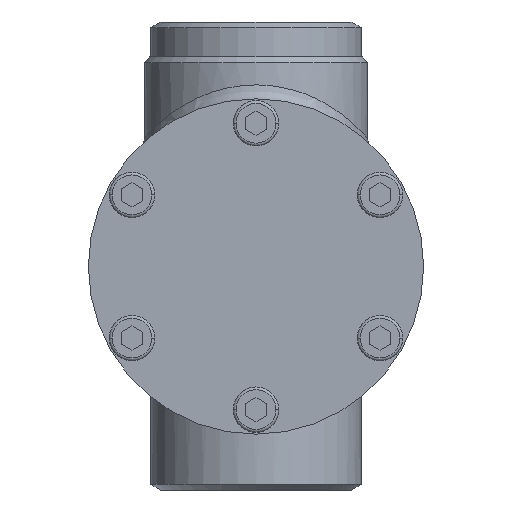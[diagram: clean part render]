
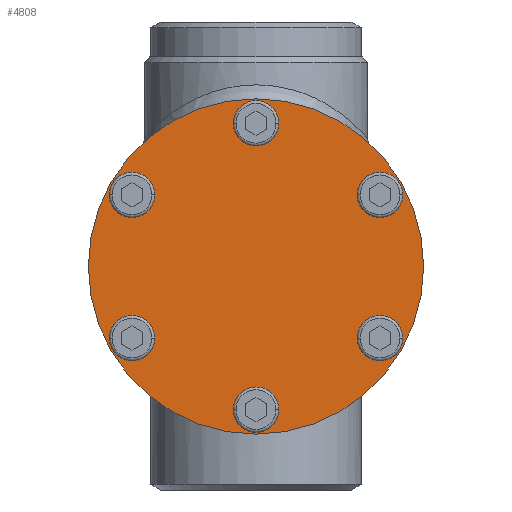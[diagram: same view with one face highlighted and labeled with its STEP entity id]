
A CAD part, front view. The second image highlights one B-rep face of the part: STEP entity #4808.
In plain terms, the highlighted planar face has unit normal (0, -1, 0) as drawn and (0, 0, -1) by its records, which use the part's own axes.
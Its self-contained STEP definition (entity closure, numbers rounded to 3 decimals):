
#177 = EDGE_CURVE ( 'NONE', #1837, #28986, #25030, .T. ) ;
#418 = EDGE_CURVE ( 'NONE', #7014, #4771, #25304, .T. ) ;
#453 = EDGE_CURVE ( 'NONE', #12820, #13241, #25311, .T. ) ;
#16857 = VERTEX_POINT ( 'NONE', #14685 ) ;
#17265 = EDGE_CURVE ( 'NONE', #18259, #16857, #14903, .T. ) ;
#18037 = VERTEX_POINT ( 'NONE', #16211 ) ;
#1837 = VERTEX_POINT ( 'NONE', #25865 ) ;
#18258 = EDGE_CURVE ( 'NONE', #19153, #18037, #16292, .T. ) ;
#18259 = VERTEX_POINT ( 'NONE', #16315 ) ;
#18856 = EDGE_LOOP ( 'NONE', ( #4269, #13482 ) ) ;
#19153 = VERTEX_POINT ( 'NONE', #26865 ) ;
#19460 = ORIENTED_EDGE ( 'NONE', *, *, #177, .F. ) ;
#19631 = CIRCLE ( 'NONE', #19632, 4.5 ) ;
#19632 = AXIS2_PLACEMENT_3D ( 'NONE', #19633, #19634, #19635 ) ;
#19633 = CARTESIAN_POINT ( 'NONE',  ( 0., -41., -41.5 ) ) ;
#19634 = DIRECTION ( 'NONE',  ( 0., 0., -1. ) ) ;
#19635 = DIRECTION ( 'NONE',  ( 1., 0., 0. ) ) ;
#19795 = CARTESIAN_POINT ( 'NONE',  ( -40.007, 20.5, -41.5 ) ) ;
#4269 = ORIENTED_EDGE ( 'NONE', *, *, #11634, .F. ) ;
#20657 = CIRCLE ( 'NONE', #20658, 4.5 ) ;
#20658 = AXIS2_PLACEMENT_3D ( 'NONE', #20659, #20660, #20661 ) ;
#20659 = CARTESIAN_POINT ( 'NONE',  ( -35.507, 20.5, -41.5 ) ) ;
#20660 = DIRECTION ( 'NONE',  ( 0., 0., -1. ) ) ;
#20661 = DIRECTION ( 'NONE',  ( -0.5, -0.866, 0. ) ) ;
#20729 = CARTESIAN_POINT ( 'NONE',  ( -48., 0., -41.5 ) ) ;
#20780 = CARTESIAN_POINT ( 'NONE',  ( -40.007, -20.5, -41.5 ) ) ;
#20839 = ORIENTED_EDGE ( 'NONE', *, *, #18258, .F. ) ;
#20987 = CARTESIAN_POINT ( 'NONE',  ( 48., 0., -41.5 ) ) ;
#4771 = VERTEX_POINT ( 'NONE', #6109 ) ;
#4806 = EDGE_LOOP ( 'NONE', ( #15179, #20839 ) ) ;
#4808 = ADVANCED_FACE ( 'NONE', ( #6182, #6183, #6184, #6185, #6186, #6187, #6188 ), #6222, .F. ) ;
#4921 = ORIENTED_EDGE ( 'NONE', *, *, #15322, .F. ) ;
#21781 = EDGE_CURVE ( 'NONE', #22468, #12926, #12067, .T. ) ;
#5477 = VERTEX_POINT ( 'NONE', #7686 ) ;
#5545 = EDGE_CURVE ( 'NONE', #28986, #1837, #7748, .T. ) ;
#5582 = EDGE_LOOP ( 'NONE', ( #4921, #12442 ) ) ;
#6034 = ORIENTED_EDGE ( 'NONE', *, *, #7424, .F. ) ;
#22468 = VERTEX_POINT ( 'NONE', #13376 ) ;
#6109 = CARTESIAN_POINT ( 'NONE',  ( 4.5, 41., -41.5 ) ) ;
#6182 = FACE_BOUND ( 'NONE', #4806, .T. ) ;
#6183 = FACE_BOUND ( 'NONE', #14526, .T. ) ;
#6184 = FACE_BOUND ( 'NONE', #18856, .T. ) ;
#6185 = FACE_BOUND ( 'NONE', #13102, .T. ) ;
#6186 = FACE_BOUND ( 'NONE', #10701, .T. ) ;
#6187 = FACE_BOUND ( 'NONE', #7990, .T. ) ;
#6188 = FACE_OUTER_BOUND ( 'NONE', #5582, .T. ) ;
#6222 = PLANE ( 'NONE',  #6223 ) ;
#6223 = AXIS2_PLACEMENT_3D ( 'NONE', #6224, #6225, #6226 ) ;
#6224 = CARTESIAN_POINT ( 'NONE',  ( 0., 0., -41.5 ) ) ;
#6225 = DIRECTION ( 'NONE',  ( 0., 0., 1. ) ) ;
#6226 = DIRECTION ( 'NONE',  ( 1., 0., 0. ) ) ;
#7014 = VERTEX_POINT ( 'NONE', #11445 ) ;
#7017 = ORIENTED_EDGE ( 'NONE', *, *, #418, .F. ) ;
#7424 = EDGE_CURVE ( 'NONE', #4771, #7014, #11743, .T. ) ;
#23928 = CIRCLE ( 'NONE', #23929, 4.5 ) ;
#23929 = AXIS2_PLACEMENT_3D ( 'NONE', #23930, #23931, #23932 ) ;
#23930 = CARTESIAN_POINT ( 'NONE',  ( 35.507, 20.5, -41.5 ) ) ;
#23931 = DIRECTION ( 'NONE',  ( 0., 0., -1. ) ) ;
#23932 = DIRECTION ( 'NONE',  ( -0.5, 0.866, 0. ) ) ;
#7686 = CARTESIAN_POINT ( 'NONE',  ( -31.007, 20.5, -41.5 ) ) ;
#7748 = CIRCLE ( 'NONE', #7749, 4.5 ) ;
#7749 = AXIS2_PLACEMENT_3D ( 'NONE', #7750, #7751, #7752 ) ;
#7750 = CARTESIAN_POINT ( 'NONE',  ( 35.507, -20.5, -41.5 ) ) ;
#7751 = DIRECTION ( 'NONE',  ( 0., 0., -1. ) ) ;
#7752 = DIRECTION ( 'NONE',  ( 0.5, 0.866, 0. ) ) ;
#7990 = EDGE_LOOP ( 'NONE', ( #7017, #6034 ) ) ;
#8440 = ORIENTED_EDGE ( 'NONE', *, *, #12650, .F. ) ;
#8547 = EDGE_CURVE ( 'NONE', #12926, #22468, #13072, .T. ) ;
#25030 = CIRCLE ( 'NONE', #25031, 4.5 ) ;
#25031 = AXIS2_PLACEMENT_3D ( 'NONE', #25032, #25033, #25050 ) ;
#25032 = CARTESIAN_POINT ( 'NONE',  ( 35.507, -20.5, -41.5 ) ) ;
#25033 = DIRECTION ( 'NONE',  ( 0., 0., -1. ) ) ;
#25050 = DIRECTION ( 'NONE',  ( 0.5, 0.866, 0. ) ) ;
#25304 = CIRCLE ( 'NONE', #25305, 4.5 ) ;
#25305 = AXIS2_PLACEMENT_3D ( 'NONE', #25306, #25307, #25308 ) ;
#25306 = CARTESIAN_POINT ( 'NONE',  ( 0., 41., -41.5 ) ) ;
#25307 = DIRECTION ( 'NONE',  ( 0., 0., -1. ) ) ;
#25308 = DIRECTION ( 'NONE',  ( -1., 0., 0. ) ) ;
#25311 = CIRCLE ( 'NONE', #25312, 48. ) ;
#25312 = AXIS2_PLACEMENT_3D ( 'NONE', #25313, #25314, #25315 ) ;
#25313 = CARTESIAN_POINT ( 'NONE',  ( 0., 0., -41.5 ) ) ;
#25314 = DIRECTION ( 'NONE',  ( 0., 0., 1. ) ) ;
#25315 = DIRECTION ( 'NONE',  ( 1., 0., 0. ) ) ;
#25865 = CARTESIAN_POINT ( 'NONE',  ( 40.007, -20.5, -41.5 ) ) ;
#9730 = ORIENTED_EDGE ( 'NONE', *, *, #14700, .F. ) ;
#9934 = ORIENTED_EDGE ( 'NONE', *, *, #5545, .F. ) ;
#26865 = CARTESIAN_POINT ( 'NONE',  ( 40.007, 20.5, -41.5 ) ) ;
#10701 = EDGE_LOOP ( 'NONE', ( #9730, #8440 ) ) ;
#11149 = ORIENTED_EDGE ( 'NONE', *, *, #21781, .F. ) ;
#11445 = CARTESIAN_POINT ( 'NONE',  ( -4.5, 41., -41.5 ) ) ;
#11630 = CIRCLE ( 'NONE', #11631, 4.5 ) ;
#11631 = AXIS2_PLACEMENT_3D ( 'NONE', #11632, #11633, #11654 ) ;
#11632 = CARTESIAN_POINT ( 'NONE',  ( -35.507, 20.5, -41.5 ) ) ;
#11633 = DIRECTION ( 'NONE',  ( 0., 0., -1. ) ) ;
#11634 = EDGE_CURVE ( 'NONE', #16857, #18259, #19631, .T. ) ;
#11654 = DIRECTION ( 'NONE',  ( -0.5, -0.866, 0. ) ) ;
#11743 = CIRCLE ( 'NONE', #11744, 4.5 ) ;
#11744 = AXIS2_PLACEMENT_3D ( 'NONE', #11745, #11746, #11747 ) ;
#11745 = CARTESIAN_POINT ( 'NONE',  ( 0., 41., -41.5 ) ) ;
#11746 = DIRECTION ( 'NONE',  ( 0., 0., -1. ) ) ;
#11747 = DIRECTION ( 'NONE',  ( -1., 0., 0. ) ) ;
#12041 = CIRCLE ( 'NONE', #12042, 48. ) ;
#12042 = AXIS2_PLACEMENT_3D ( 'NONE', #12043, #12044, #12045 ) ;
#12043 = CARTESIAN_POINT ( 'NONE',  ( 0., 0., -41.5 ) ) ;
#12044 = DIRECTION ( 'NONE',  ( 0., 0., 1. ) ) ;
#12045 = DIRECTION ( 'NONE',  ( 1., 0., 0. ) ) ;
#12067 = CIRCLE ( 'NONE', #12068, 4.5 ) ;
#12068 = AXIS2_PLACEMENT_3D ( 'NONE', #12069, #12070, #12071 ) ;
#12069 = CARTESIAN_POINT ( 'NONE',  ( -35.507, -20.5, -41.5 ) ) ;
#12070 = DIRECTION ( 'NONE',  ( 0., 0., -1. ) ) ;
#12071 = DIRECTION ( 'NONE',  ( 0.5, -0.866, 0. ) ) ;
#12127 = ORIENTED_EDGE ( 'NONE', *, *, #8547, .F. ) ;
#12231 = VERTEX_POINT ( 'NONE', #19795 ) ;
#12442 = ORIENTED_EDGE ( 'NONE', *, *, #453, .F. ) ;
#28986 = VERTEX_POINT ( 'NONE', #15099 ) ;
#12650 = EDGE_CURVE ( 'NONE', #5477, #12231, #20657, .T. ) ;
#12820 = VERTEX_POINT ( 'NONE', #20729 ) ;
#12926 = VERTEX_POINT ( 'NONE', #20780 ) ;
#13072 = CIRCLE ( 'NONE', #13073, 4.5 ) ;
#13073 = AXIS2_PLACEMENT_3D ( 'NONE', #13074, #13075, #13076 ) ;
#13074 = CARTESIAN_POINT ( 'NONE',  ( -35.507, -20.5, -41.5 ) ) ;
#13075 = DIRECTION ( 'NONE',  ( 0., 0., -1. ) ) ;
#13076 = DIRECTION ( 'NONE',  ( 0.5, -0.866, 0. ) ) ;
#13102 = EDGE_LOOP ( 'NONE', ( #12127, #11149 ) ) ;
#13241 = VERTEX_POINT ( 'NONE', #20987 ) ;
#13376 = CARTESIAN_POINT ( 'NONE',  ( -31.007, -20.5, -41.5 ) ) ;
#13482 = ORIENTED_EDGE ( 'NONE', *, *, #17265, .F. ) ;
#13680 = EDGE_CURVE ( 'NONE', #18037, #19153, #23928, .T. ) ;
#14526 = EDGE_LOOP ( 'NONE', ( #9934, #19460 ) ) ;
#14685 = CARTESIAN_POINT ( 'NONE',  ( -4.5, -41., -41.5 ) ) ;
#14700 = EDGE_CURVE ( 'NONE', #12231, #5477, #11630, .T. ) ;
#14903 = CIRCLE ( 'NONE', #14925, 4.5 ) ;
#14925 = AXIS2_PLACEMENT_3D ( 'NONE', #14926, #14927, #14928 ) ;
#14926 = CARTESIAN_POINT ( 'NONE',  ( 0., -41., -41.5 ) ) ;
#14927 = DIRECTION ( 'NONE',  ( 0., 0., -1. ) ) ;
#14928 = DIRECTION ( 'NONE',  ( 1., 0., 0. ) ) ;
#15099 = CARTESIAN_POINT ( 'NONE',  ( 31.007, -20.5, -41.5 ) ) ;
#15179 = ORIENTED_EDGE ( 'NONE', *, *, #13680, .F. ) ;
#15322 = EDGE_CURVE ( 'NONE', #13241, #12820, #12041, .T. ) ;
#16211 = CARTESIAN_POINT ( 'NONE',  ( 31.007, 20.5, -41.5 ) ) ;
#16292 = CIRCLE ( 'NONE', #16293, 4.5 ) ;
#16293 = AXIS2_PLACEMENT_3D ( 'NONE', #16294, #16295, #16314 ) ;
#16294 = CARTESIAN_POINT ( 'NONE',  ( 35.507, 20.5, -41.5 ) ) ;
#16295 = DIRECTION ( 'NONE',  ( 0., 0., -1. ) ) ;
#16314 = DIRECTION ( 'NONE',  ( -0.5, 0.866, 0. ) ) ;
#16315 = CARTESIAN_POINT ( 'NONE',  ( 4.5, -41., -41.5 ) ) ;
